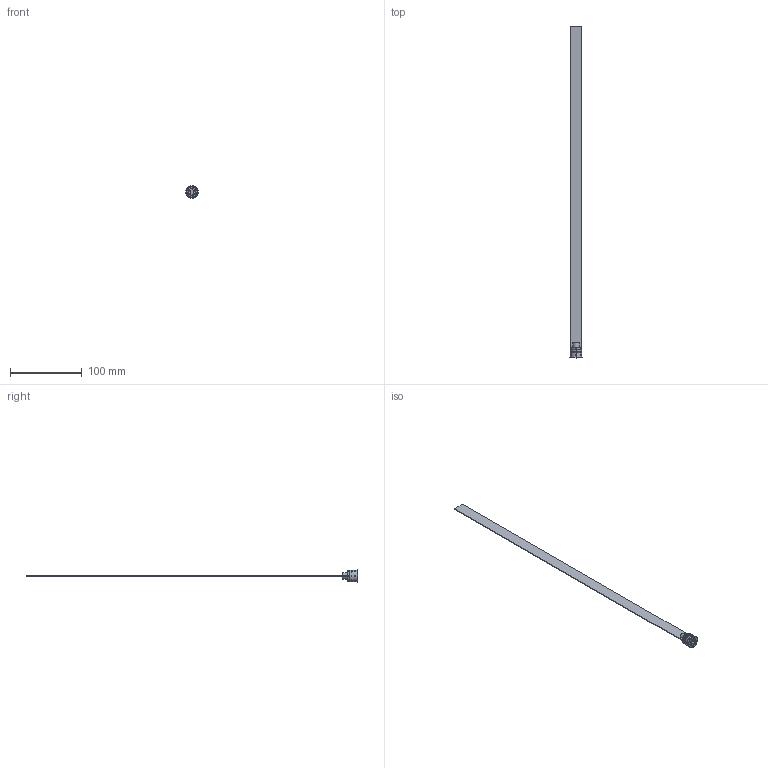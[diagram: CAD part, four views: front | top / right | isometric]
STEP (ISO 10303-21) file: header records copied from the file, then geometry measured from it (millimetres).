
FILE_DESCRIPTION (( 'STEP AP203' ), '1' );
FILE_NAME ('RL-16Fx450.STEP', '2015-12-02T14:31:48', ( 'Balzi' ), ( '' ), 'SwSTEP 2.0', 'SolidWorks 2015', '' );
FILE_SCHEMA (( 'CONFIG_CONTROL_DESIGN' ));
Length unit declared in the file: millimetre
Products named in the file (1): RL-16Fx450
Bounding box: 17.5 x 464 x 17.5 mm (x, y, z)
Volume: 10038.3 mm3; surface area: 16897.6 mm2
Topology: 1 solids, 1 shells, 75 faces, 177 edges, 109 vertices
Faces by surface type: plane 31, cone 19, cylinder 17, torus 8
Entity records: 2245 total; most frequent: CARTESIAN_POINT 412, DIRECTION 386, ORIENTED_EDGE 354, EDGE_CURVE 177, AXIS2_PLACEMENT_3D 147, VERTEX_POINT 109, VECTOR 92, LINE 92
